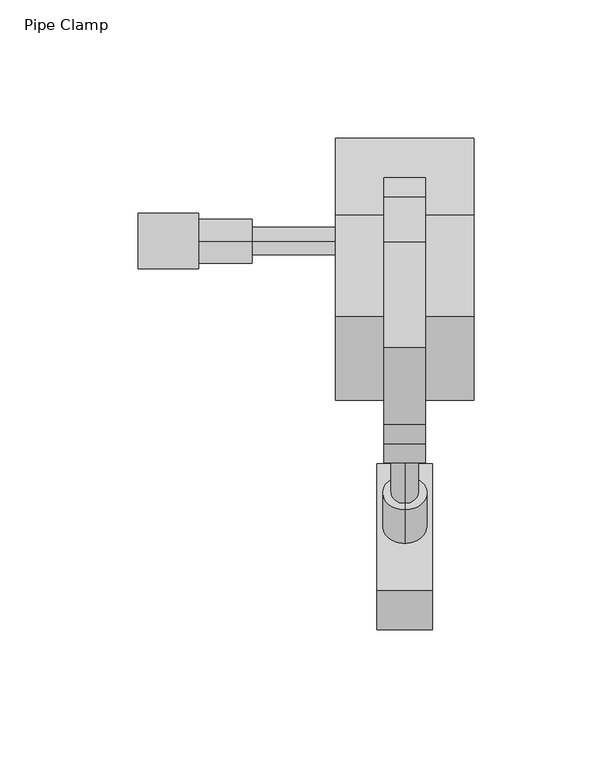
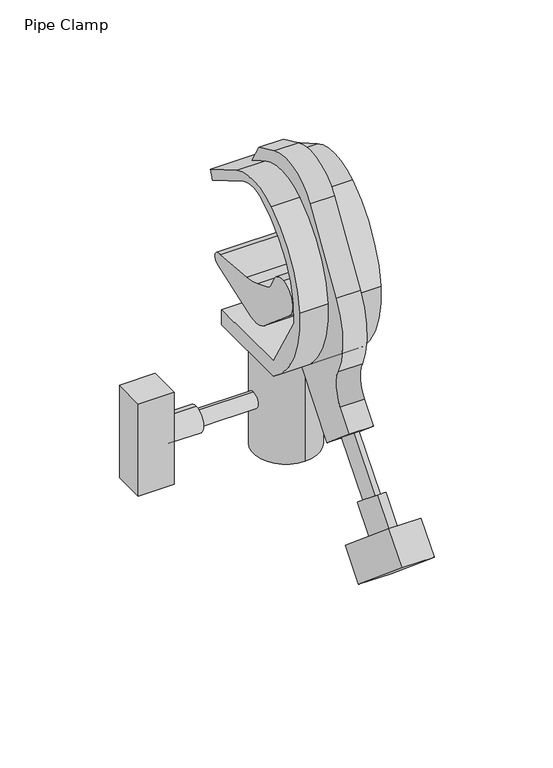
"""IFC4 building model written with IfcOpenShell, lengths in millimetres: proxy geometry, d&b Pipe Clamp : Pipe Clamp."""

import ifcopenshell
import ifcopenshell.guid

model = None  # the IFC model being written
_history = None  # IfcOwnerHistory: only IFC2X3 demands one
_inside = {}  # id of a spatial element -> (the spatial element, [elements in it])
_under = {}  # id of a project, library or spatial element -> (it, [spatial elements below it])
_declared = {}  # id of a project -> (the project, [libraries it declares])
_typed = {}  # id of a type object -> (the type object, [elements of that type])
_made_of = {}  # id of a material, layer set ... -> (it, [elements and type objects made of it])


def new_model(schema):
    """Start an empty IFC model of exactly this schema.

    Asked for "IFC4X3", IfcOpenShell would pick the latest addendum, in which some entities
    have other attributes; the version numbers below select the first issue.
    IFC2X3 requires an IfcOwnerHistory on every rooted entity: one is made here for all.
    """
    global model, _history
    if schema == "IFC4X3":
        model = ifcopenshell.file(schema_version=(4, 3, 0, 0))
    else:
        model = ifcopenshell.file(schema=schema)
    _inside.clear()
    _under.clear()
    _declared.clear()
    _typed.clear()
    _made_of.clear()
    _history = None
    if model.schema == "IFC2X3":
        org = make("IfcOrganization", Name="unknown")
        user = make(
            "IfcPersonAndOrganization",
            ThePerson=make("IfcPerson", FamilyName="unknown"),
            TheOrganization=org,
        )
        app = make(
            "IfcApplication",
            ApplicationDeveloper=org,
            Version="unknown",
            ApplicationFullName="unknown",
            ApplicationIdentifier="unknown",
        )
        _history = make(
            "IfcOwnerHistory",
            OwningUser=user,
            OwningApplication=app,
            ChangeAction="ADDED",
            CreationDate=0,
        )
    return model


def make(cls, **values):
    """One entity of the class cls with the attributes given. An attribute that is None is left unset."""
    return model.create_entity(
        cls, **{name: value for name, value in values.items() if value is not None}
    )


def rooted(cls, **values):
    """An entity with a GlobalId (a new one), such as an element, a storey or a relation."""
    return make(cls, GlobalId=ifcopenshell.guid.new(), OwnerHistory=_history, **values)


def si_unit(unit_type, name, prefix=None):
    """IfcSIUnit, for example si_unit("LENGTHUNIT", "METRE", prefix="MILLI")."""
    return make("IfcSIUnit", UnitType=unit_type, Prefix=prefix, Name=name)


def assignment(units):
    """IfcUnitAssignment: the units of a project."""
    return None if units is None else make("IfcUnitAssignment", Units=units)


def point(xyz):
    """IfcCartesianPoint."""
    return None if xyz is None else make("IfcCartesianPoint", Coordinates=xyz)


def direction(xyz):
    """IfcDirection."""
    return None if xyz is None else make("IfcDirection", DirectionRatios=xyz)


def frame(location, z_axis=None, x_axis=None):
    """IfcAxis2Placement3D, a coordinate frame: its origin and axes. An axis left out is left unset."""
    return make(
        "IfcAxis2Placement3D",
        Location=point(location),
        Axis=direction(z_axis),
        RefDirection=direction(x_axis),
    )


def frame_2d(location, x_axis=None):
    """IfcAxis2Placement2D, a coordinate frame in the plane: its origin and x axis."""
    return make(
        "IfcAxis2Placement2D", Location=point(location), RefDirection=direction(x_axis)
    )


def origin():
    """The frame at (0, 0, 0) with its axes left unset."""
    return frame((0.0, 0.0, 0.0))


def place(relative_to, where):
    """IfcLocalPlacement: puts the frame where relative to a parent placement (None: the world)."""
    return make(
        "IfcLocalPlacement", PlacementRelTo=relative_to, RelativePlacement=where
    )


def context(
    kind, dimensions, precision=None, world=None, true_north=None, identifier=None
):
    """IfcGeometricRepresentationContext, for example the 3D "Model" context."""
    return make(
        "IfcGeometricRepresentationContext",
        ContextIdentifier=identifier,
        ContextType=kind,
        CoordinateSpaceDimension=dimensions,
        Precision=precision,
        WorldCoordinateSystem=world,
        TrueNorth=true_north,
    )


def project(units=None, contexts=None):
    """IfcProject with its units and contexts."""
    return rooted(
        "IfcProject",
        Name="project",
        RepresentationContexts=contexts,
        UnitsInContext=assignment(units),
    )


def spatial(cls, under=None, at=None, **own):
    """A site, building, storey or space (cls), placed at a placement, below another one or the project."""
    s = rooted(cls, ObjectPlacement=at, **own)
    if under is not None:
        _under.setdefault(under.id(), (under, []))[1].append(s)
    return s


def polyline(points):
    """IfcPolyline through the points."""
    return make("IfcPolyline", Points=[point(p) for p in points])


def circle_curve(where, radius):
    """IfcCircle in the frame where."""
    return make("IfcCircle", Position=where, Radius=radius)


def trimmed(basis, trim1, trim2, sense, master):
    """IfcTrimmedCurve: the piece of a basis curve between two trims."""
    return make(
        "IfcTrimmedCurve",
        BasisCurve=basis,
        Trim1=trim1,
        Trim2=trim2,
        SenseAgreement=sense,
        MasterRepresentation=master,
    )


def segment(curve, same_sense, transition):
    """IfcCompositeCurveSegment."""
    return make(
        "IfcCompositeCurveSegment",
        Transition=transition,
        SameSense=same_sense,
        ParentCurve=curve,
    )


def composite_curve(segments, self_intersect=None):
    """IfcCompositeCurve: segments joined end to end."""
    return make("IfcCompositeCurve", Segments=segments, SelfIntersect=self_intersect)


def outline(outer, holes=None, kind="AREA"):
    """IfcArbitraryClosedProfileDef: a profile drawn as a closed curve; with holes, ...WithVoids."""
    if holes is None:
        return make("IfcArbitraryClosedProfileDef", ProfileType=kind, OuterCurve=outer)
    return make(
        "IfcArbitraryProfileDefWithVoids",
        ProfileType=kind,
        OuterCurve=outer,
        InnerCurves=holes,
    )


def extrude(swept, where, along, depth):
    """IfcExtrudedAreaSolid: the profile swept, set in the frame where, extruded along a direction by depth."""
    return make(
        "IfcExtrudedAreaSolid",
        SweptArea=swept,
        Position=where,
        ExtrudedDirection=direction(along),
        Depth=depth,
    )


def shape(context_of_items, identifier, shape_type, items):
    """IfcShapeRepresentation: the items that make up one representation, for example the "Body"."""
    return make(
        "IfcShapeRepresentation",
        ContextOfItems=context_of_items,
        RepresentationIdentifier=identifier,
        RepresentationType=shape_type,
        Items=items,
    )


def source(mapping_origin, context_of_items, identifier, shape_type, items):
    """IfcRepresentationMap: a shape defined once, which mapped items show again and again."""
    return make(
        "IfcRepresentationMap",
        MappingOrigin=mapping_origin,
        MappedRepresentation=shape(context_of_items, identifier, shape_type, items),
    )


def transform(
    local_origin,
    x_axis=None,
    y_axis=None,
    z_axis=None,
    scale=None,
    scale2=None,
    scale3=None,
    uniform=True,
):
    """IfcCartesianTransformationOperator3D, or its non-uniform kind. x_axis, y_axis, z_axis: its Axis1, 2, 3."""
    if uniform:
        return make(
            "IfcCartesianTransformationOperator3D",
            Axis1=direction(x_axis),
            Axis2=direction(y_axis),
            LocalOrigin=point(local_origin),
            Scale=scale,
            Axis3=direction(z_axis),
        )
    return make(
        "IfcCartesianTransformationOperator3DnonUniform",
        Axis1=direction(x_axis),
        Axis2=direction(y_axis),
        LocalOrigin=point(local_origin),
        Scale=scale,
        Axis3=direction(z_axis),
        Scale2=scale2,
        Scale3=scale3,
    )


def mapped(mapping_source, mapping_target):
    """IfcMappedItem: shows the shape of a source again, moved by a transform."""
    return make(
        "IfcMappedItem", MappingSource=mapping_source, MappingTarget=mapping_target
    )


def made_of(thing, what):
    """Note that an element or type object is made of a material, layer set ...; save() writes the relation."""
    if what is not None:
        _made_of.setdefault(what.id(), (what, []))[1].append(thing)
    return thing


def element(
    cls,
    number,
    at=None,
    inside=None,
    cuts=None,
    type_object=None,
    material=None,
    context=None,
    identifier="Body",
    shape_type=None,
    held_by="IfcProductDefinitionShape",
    body=None,
    shapes=None,
    **own,
):
    """One element of the class cls, such as IfcWall. Its Tag is "e" and its number.

    at: its placement. inside: the storey or other place that contains it. cuts: it is an
    opening in that element (IfcRelVoidsElement). A single representation is given by context,
    identifier, shape_type and body (its items); several are given by shapes. held_by: the class
    of the entity that holds the representations. save() writes the other relations.
    """
    e = rooted(cls, Tag="e%d" % number, ObjectPlacement=at, **own)
    if body is not None:
        shapes = [shape(context, identifier, shape_type, body)]
    if shapes is not None:
        e.Representation = make(held_by, Representations=shapes)
    if inside is not None:
        _inside.setdefault(inside.id(), (inside, []))[1].append(e)
    if cuts is not None:
        rooted(
            "IfcRelVoidsElement", RelatingBuildingElement=cuts, RelatedOpeningElement=e
        )
    if type_object is not None:
        _typed.setdefault(type_object.id(), (type_object, []))[1].append(e)
    return made_of(e, material)


def aggregate(whole, parts):
    """IfcRelAggregates: a whole, such as a stair, and the parts it consists of."""
    return rooted("IfcRelAggregates", RelatingObject=whole, RelatedObjects=parts)


def save(model, path):
    """Write the relations noted so far, then the file.

    IfcRelAggregates (storeys below a building ...), IfcRelContainedInSpatialStructure (elements
    in a storey), IfcRelDefinesByType, IfcRelAssociatesMaterial and IfcRelDeclares: one each for
    every whole, place, type object, material and project.
    """
    for whole, parts in _under.values():
        aggregate(whole, parts)
    for where, things in _inside.values():
        rooted(
            "IfcRelContainedInSpatialStructure",
            RelatedElements=things,
            RelatingStructure=where,
        )
    for kind, things in _typed.values():
        rooted("IfcRelDefinesByType", RelatedObjects=things, RelatingType=kind)
    for what, things in _made_of.values():
        rooted("IfcRelAssociatesMaterial", RelatedObjects=things, RelatingMaterial=what)
    for by, libraries in _declared.values():
        rooted("IfcRelDeclares", RelatingContext=by, RelatedDefinitions=libraries)
    model.write(path)


def plane_surface(at):
    """IfcPlane: the flat surface through the origin of the frame at, square to its z axis."""
    return make("IfcPlane", Position=at)


def cylinder_surface(at, radius):
    """IfcCylindricalSurface: all points at the distance radius from the z axis of the frame at."""
    return make("IfcCylindricalSurface", Position=at, Radius=radius)


def revolved_surface(curve, axis_point, axis_direction):
    """IfcSurfaceOfRevolution: the curve turned about the line through axis_point along axis_direction."""
    return make(
        "IfcSurfaceOfRevolution",
        SweptCurve=make("IfcArbitraryOpenProfileDef", ProfileType="CURVE", Curve=curve),
        AxisPosition=make("IfcAxis1Placement", Location=point(axis_point), Axis=direction(axis_direction)),
    )


def advanced_brep(points, edges, surfaces, faces):
    """IfcAdvancedBrep: a solid bounded by faces that lie on surfaces and meet in shared edges.

    An edge is (start, end): straight between two places in points (the first is 0);
    or (start, end, curve); or (start, end, curve, False) where it runs against its curve.
    A face is (place in surfaces, loops), or (place, loops, False) where it looks against
    its surface's normal. A loop lists edges by number (the first is 1), with a minus sign
    where the edge is run from its end to its start. The first loop is the outer one.
    """
    corners = [point(p) for p in points]
    vertices = [make("IfcVertexPoint", VertexGeometry=c) for c in corners]
    made = []
    for start, end, *more in edges:
        made.append(
            make(
                "IfcEdgeCurve",
                EdgeStart=vertices[start],
                EdgeEnd=vertices[end],
                EdgeGeometry=more[0] if more else make("IfcPolyline", Points=[corners[start], corners[end]]),
                SameSense=more[1] if len(more) > 1 else True,
            )
        )
    hull = []
    for where, loops, *sense in faces:
        bounds = []
        for j, loop in enumerate(loops):
            ring = [make("IfcOrientedEdge", EdgeElement=made[abs(k) - 1], Orientation=k > 0) for k in loop]
            bounds.append(
                make(
                    "IfcFaceOuterBound" if j == 0 else "IfcFaceBound",
                    Bound=make("IfcEdgeLoop", EdgeList=ring),
                    Orientation=True,
                )
            )
        hull.append(make("IfcAdvancedFace", Bounds=bounds, FaceSurface=surfaces[where], SameSense=sense[0] if sense else True))
    return make("IfcAdvancedBrep", Outer=make("IfcClosedShell", CfsFaces=hull))


def pipe_clamp_9ec87b98(model_context):
    return source(origin(), model_context, "Body", "SolidModel", [
        extrude(outline(composite_curve([segment(polyline([(25.0, 6.4759171), (-30.0, 6.4759171)]), True, "CONTINUOUS"), segment(trimmed(circle_curve(frame_2d((5.0372043, 58.6849428)), 62.8759736), [point((-30.0, 6.4759171))], [point((-57.590722, 64.2644495))], False, "CARTESIAN"), True, "CONTINUOUS"), segment(trimmed(circle_curve(frame_2d((10.2768614, 58.2181431)), 68.1363831), [point((-57.590722, 64.2644495))], [point((-27.2623177, 115.0809317))], False, "CARTESIAN"), True, "CONTINUOUS"), segment(trimmed(circle_curve(frame_2d((-7.979356, 85.8719025)), 35.0), [point((-27.2623177, 115.0809317))], [point((9.520644, 116.1827916))], False, "CARTESIAN"), True, "CONTINUOUS"), segment(polyline([(9.520644, 116.1827916), (37.1832599, 100.2117729), (34.6378643, 94.7531545), (2.0868208, 113.5465082)]), True, "CONTINUOUS"), segment(trimmed(circle_curve(frame_2d((-7.9131792, 96.2260002)), 20.0), [point((2.0868208, 113.5465082))], [point((-16.5470672, 114.2663987))], True, "CARTESIAN"), True, "CONTINUOUS"), segment(trimmed(circle_curve(frame_2d((10.2768614, 58.2181431)), 62.1363831), [point((-16.5470672, 114.2663987))], [point((-51.7229867, 54.1012337))], True, "CARTESIAN"), True, "CONTINUOUS"), segment(polyline([(-51.7229867, 54.1012337), (-30.0, 16.4759171), (25.0, 16.4759171), (25.0, 6.4759171)]), True, "CONTINUOUS")], self_intersect=False)), frame((-25.0, 0.0, 0.0), z_axis=(1.0, 0.0, 0.0), x_axis=(0.0, 1.0, 0.0)), (0.0, 0.0, 1.0), 50.0),
        advanced_brep(
        [(0.0, 0.0, 6.4759171), (0.0, 20.0, 6.4759171), (0.0, -20.0, 6.4759171), (0.0, -11.9982973, 0.0), (0.0, 11.9982973, 0.0), (0.0, 0.0, 0.0), (0.0, -11.9982973, -63.5240829), (0.0, 11.9982973, -63.5240829), (0.0, -20.0, -63.5240829), (0.0, 20.0, -63.5240829)],
        [
            (0, 1),
            (1, 2, circle_curve(frame((0.0, 0.0, 6.4759171), z_axis=(0.0, 0.0, 1.0), x_axis=(0.0, 1.0, 0.0)), 20.0)),
            (2, 0),
            (2, 1, circle_curve(frame((0.0, 0.0, 6.4759171), z_axis=(0.0, 0.0, 1.0), x_axis=(0.0, 1.0, 0.0)), 20.0)),
            (3, 4, circle_curve(frame((0.0, 0.0, 0.0), z_axis=(0.0, 0.0, -1.0), x_axis=(0.0, 1.0, 0.0)), 11.9982973)),
            (4, 5),
            (5, 3),
            (4, 3, circle_curve(frame((0.0, 0.0, 0.0), z_axis=(0.0, 0.0, -1.0), x_axis=(0.0, 1.0, 0.0)), 11.9982973)),
            (6, 7, circle_curve(frame((0.0, 0.0, -63.5240829), z_axis=(0.0, 0.0, -1.0), x_axis=(0.0, 1.0, 0.0)), 11.9982973)),
            (7, 4),
            (3, 6),
            (7, 6, circle_curve(frame((0.0, 0.0, -63.5240829), z_axis=(0.0, 0.0, -1.0), x_axis=(0.0, 1.0, 0.0)), 11.9982973)),
            (8, 9, circle_curve(frame((0.0, 0.0, -63.5240829), z_axis=(0.0, 0.0, -1.0), x_axis=(0.0, 1.0, 0.0)), 20.0)),
            (9, 7),
            (6, 8),
            (9, 8, circle_curve(frame((0.0, 0.0, -63.5240829), z_axis=(0.0, 0.0, -1.0), x_axis=(0.0, 1.0, 0.0)), 20.0)),
            (1, 9),
            (8, 2),
        ],
        [
            plane_surface(frame((0.0, 0.0, 6.4759171), z_axis=(0.0, 0.0, 1.0), x_axis=(0.0, 1.0, 0.0))),
            plane_surface(frame((0.0, 0.0, 0.0), z_axis=(0.0, 0.0, -1.0), x_axis=(0.0, 1.0, 0.0))),
            revolved_surface(polyline([(0.0, 11.9982973, 0.0), (0.0, 11.9982973, -63.5240829)]), (0.0, 0.0, -20.0), (0.0, 0.0, 1.0)),
            plane_surface(frame((0.0, 0.0, -63.5240829), z_axis=(0.0, 0.0, -1.0), x_axis=(0.0, 1.0, 0.0))),
            cylinder_surface(frame((0.0, 0.0, -20.0), z_axis=(0.0, 0.0, 1.0), x_axis=(0.0, 1.0, 0.0)), 20.0),
        ],
        [
            (0, [[1, 2, 3]]),
            (0, [[-3, 4, -1]]),
            (1, [[5, 6, 7]]),
            (1, [[8, -7, -6]]),
            (2, [[9, 10, -5, 11]]),
            (2, [[12, -11, -8, -10]]),
            (3, [[13, 14, -9, 15]]),
            (3, [[16, -15, -12, -14]]),
            (4, [[-2, 17, -13, 18]]),
            (4, [[-4, -18, -16, -17]]),
        ],
    ),
        extrude(outline(composite_curve([segment(polyline([(15.851952, 121.1876633), (23.351952, 108.1972823), (9.520644, 116.1827916)]), True, "CONTINUOUS"), segment(trimmed(circle_curve(frame_2d((-7.979356, 85.8719025)), 35.0), [point((9.520644, 116.1827916))], [point((-27.2623177, 115.0809317))], True, "CARTESIAN"), True, "CONTINUOUS"), segment(trimmed(circle_curve(frame_2d((10.2768614, 58.2181431)), 68.1363831), [point((-27.2623177, 115.0809317))], [point((-57.590722, 64.2644495))], True, "CARTESIAN"), True, "CONTINUOUS"), segment(trimmed(circle_curve(frame_2d((5.0372043, 58.6849428)), 62.8759736), [point((-57.590722, 64.2644495))], [point((-30.0, 6.4759171))], True, "CARTESIAN"), True, "CONTINUOUS"), segment(polyline([(-30.0, 6.4759171), (-56.734688, -26.5386731), (-80.2140331, -6.8371633), (-70.630197, 4.9978888)]), True, "CONTINUOUS"), segment(trimmed(circle_curve(frame_2d((-86.1731162, 17.5842966)), 20.0), [point((-70.630197, 4.9978888))], [point((-68.3383796, 26.6353832))], True, "CARTESIAN"), True, "CONTINUOUS"), segment(trimmed(circle_curve(frame_2d((-26.268913, 47.985538)), 47.1769979), [point((-68.3383796, 26.6353832))], [point((-66.2772762, 72.985538))], False, "CARTESIAN"), True, "CONTINUOUS"), segment(polyline([(-66.2772762, 72.985538), (-38.4871176, 117.4590883)]), True, "CONTINUOUS"), segment(trimmed(circle_curve(frame_2d((-13.0456747, 101.5615104)), 30.0), [point((-38.4871176, 117.4590883))], [point((-0.3671269, 128.750744))], False, "CARTESIAN"), True, "CONTINUOUS"), segment(polyline([(-0.3671269, 128.750744), (15.851952, 121.1876633)]), True, "CONTINUOUS")], self_intersect=False)), frame((-7.5, 0.0, 0.0), z_axis=(1.0, 0.0, 0.0), x_axis=(0.0, 1.0, 0.0)), (0.0, 0.0, 1.0), 15.0),
        extrude(outline(composite_curve([segment(trimmed(circle_curve(frame_2d((-10.8942773, 44.5549596)), 14.4842004), [point((-6.1786829, 30.859879))], [point((-20.2045418, 33.4594183))], False, "CARTESIAN"), True, "CONTINUOUS"), segment(polyline([(-20.2045418, 33.4594183), (-46.2351425, 55.3016858)]), True, "CONTINUOUS"), segment(trimmed(circle_curve(frame_2d((-39.0015935, 63.9222938)), 11.2534046), [point((-46.2351425, 55.3016858))], [point((-40.5177001, 75.0731025))], False, "CARTESIAN"), True, "CONTINUOUS"), segment(trimmed(circle_curve(frame_2d((-39.1704575, 65.1642712)), 10.0), [point((-40.5177001, 75.0731025))], [point((-30.3409816, 69.8589869))], False, "CARTESIAN"), True, "CONTINUOUS"), segment(polyline([(-30.3409816, 69.8589869), (-26.7402277, 63.0869537)]), True, "CONTINUOUS"), segment(trimmed(circle_curve(frame_2d((-22.1349746, 65.5356102)), 5.2157717), [point((-26.7402277, 63.0869537))], [point((-24.0888371, 60.6996309))], True, "CARTESIAN"), True, "CONTINUOUS"), segment(polyline([(-24.0888371, 60.6996309), (-12.7795295, 56.1303741)]), True, "CONTINUOUS"), segment(trimmed(circle_curve(frame_2d((2.019483, 92.7592152)), 39.5054777), [point((-12.7795295, 56.1303741))], [point((-1.4236463, 53.4040677))], True, "CARTESIAN"), True, "CONTINUOUS"), segment(polyline([(-1.4236463, 53.4040677), (26.7504659, 50.9391523)]), True, "CONTINUOUS"), segment(trimmed(circle_curve(frame_2d((28.0958183, 47.0319653)), 4.1323218), [point((26.7504659, 50.9391523))], [point((29.4411707, 43.1247782))], False, "CARTESIAN"), True, "CONTINUOUS"), segment(polyline([(29.4411707, 43.1247782), (-6.1786829, 30.859879)]), True, "CONTINUOUS")], self_intersect=False)), frame((-25.0, 0.0, 0.0), z_axis=(1.0, 0.0, 0.0), x_axis=(0.0, 1.0, 0.0)), (0.0, 0.0, 1.0), 50.0),
        extrude(outline(polyline([(-74.5642213, -10.0), (-96.5642213, -10.0), (-96.5642213, 10.0), (-74.5642213, 10.0), (-74.5642213, -10.0)])), frame((0.0, 0.0, -58.5050564), z_axis=(0.0, 0.0, 1.0), x_axis=(1.0, 0.0, 0.0)), (0.0, 0.0, 1.0), 59.961947),
        advanced_brep(
        [(-55.262466, 0.0, -23.5431094), (-55.262466, 0.0, -33.5050564), (-55.262466, 0.0, -36.5050564), (-55.262466, 0.0, -20.5431094), (-20.0, 0.0, -23.5431094), (-20.0, 0.0, -33.5050564), (-20.0, 0.0, -28.5240829), (-74.5642213, 0.0, -20.5431094), (-74.5642213, 0.0, -36.5050564), (-74.5642213, 0.0, -28.5240829)],
        [
            (0, 1, circle_curve(frame((-55.262466, 0.0, -28.5240829), z_axis=(-1.0, 0.0, 0.0), x_axis=(0.0, 0.0, -1.0000000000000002)), 4.9809735)),
            (1, 2),
            (2, 3, circle_curve(frame((-55.262466, 0.0, -28.5240829), z_axis=(1.0, 0.0, 0.0), x_axis=(0.0, 0.0, -1.0000000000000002)), 7.9809735)),
            (3, 0),
            (1, 0, circle_curve(frame((-55.262466, 0.0, -28.5240829), z_axis=(-1.0, 0.0, 0.0), x_axis=(0.0, 0.0, -1.0000000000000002)), 4.9809735)),
            (3, 2, circle_curve(frame((-55.262466, 0.0, -28.5240829), z_axis=(1.0, 0.0, 0.0), x_axis=(0.0, 0.0, -1.0000000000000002)), 7.9809735)),
            (4, 5, circle_curve(frame((-20.0, 0.0, -28.5240829), z_axis=(-1.0, 0.0, 0.0), x_axis=(0.0, 0.0, -1.0000000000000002)), 4.9809735)),
            (5, 1),
            (0, 4),
            (5, 4, circle_curve(frame((-20.0, 0.0, -28.5240829), z_axis=(-1.0, 0.0, 0.0), x_axis=(0.0, 0.0, -1.0000000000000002)), 4.9809735)),
            (6, 5),
            (4, 6),
            (7, 8, circle_curve(frame((-74.5642213, 0.0, -28.5240829), z_axis=(-1.0, 0.0, 0.0), x_axis=(0.0, 0.0, -1.0000000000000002)), 7.9809735)),
            (8, 9),
            (9, 7),
            (8, 7, circle_curve(frame((-74.5642213, 0.0, -28.5240829), z_axis=(-1.0, 0.0, 0.0), x_axis=(0.0, 0.0, -1.0000000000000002)), 7.9809735)),
            (2, 8),
            (7, 3),
        ],
        [
            plane_surface(frame((-55.262466, 0.0, -28.5240829), z_axis=(1.0, 0.0, 0.0), x_axis=(0.0, 0.0, -1.0))),
            cylinder_surface(frame((-74.5642213, 0.0, -28.5240829), z_axis=(1.0, 0.0, 0.0), x_axis=(0.0, 0.0, -1.0000000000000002)), 4.9809735),
            plane_surface(frame((-20.0, 0.0, -28.5240829), z_axis=(1.0, 0.0, 0.0), x_axis=(0.0, 0.0, -1.0))),
            plane_surface(frame((-74.5642213, 0.0, -28.5240829), z_axis=(-1.0, 0.0, 0.0), x_axis=(0.0, 0.0, -1.0))),
            cylinder_surface(frame((-74.5642213, 0.0, -28.5240829), z_axis=(1.0, 0.0, 0.0), x_axis=(0.0, 0.0, -1.0000000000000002)), 7.9809735),
        ],
        [
            (0, [[1, 2, 3, 4]]),
            (0, [[5, -4, 6, -2]]),
            (1, [[7, 8, -1, 9]]),
            (1, [[10, -9, -5, -8]]),
            (2, [[11, -7, 12]]),
            (2, [[-12, -10, -11]]),
            (3, [[13, 14, 15]]),
            (3, [[16, -15, -14]]),
            (4, [[-3, 17, -13, 18]]),
            (4, [[-6, -18, -16, -17]]),
        ],
    ),
        extrude(outline(polyline([(0.0, -59.9619469), (0.0, 0.0), (20.0, 0.0), (20.0, -59.9619469), (0.0, -59.9619469)])), frame((10.0, -140.6614785, -56.0632268), z_axis=(0.0, 0.6427876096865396, 0.7660444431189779), x_axis=(-1.0, 0.0, 0.0)), (0.0, 0.0, 1.0), 22.0),
        advanced_brep(
        [(0.0, -94.9621108, -40.4939369), (0.0, -87.3308167, -46.897353), (0.0, -85.0326834, -48.8257158), (0.0, -97.2602442, -38.5655741), (0.0, -72.2958346, -13.4813208), (0.0, -64.6645405, -19.8847368), (0.0, -68.4801875, -16.6830288), (0.0, -109.6671733, -53.3515764), (0.0, -97.4396125, -63.6117182), (0.0, -103.5533929, -58.4816473)],
        [
            (0, 1, circle_curve(frame((0.0, -91.1464638, -43.6956449), z_axis=(0.0, -0.64278760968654, -0.7660444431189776), x_axis=(0.0, 0.7660444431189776, -0.64278760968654)), 4.9809735)),
            (1, 2),
            (2, 3, circle_curve(frame((0.0, -91.1464638, -43.6956449), z_axis=(0.0, 0.64278760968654, 0.7660444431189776), x_axis=(0.0, 0.7660444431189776, -0.64278760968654)), 7.9809735)),
            (3, 0),
            (1, 0, circle_curve(frame((0.0, -91.1464638, -43.6956449), z_axis=(0.0, -0.64278760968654, -0.7660444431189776), x_axis=(0.0, 0.7660444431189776, -0.64278760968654)), 4.9809735)),
            (3, 2, circle_curve(frame((0.0, -91.1464638, -43.6956449), z_axis=(0.0, 0.64278760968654, 0.7660444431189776), x_axis=(0.0, 0.7660444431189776, -0.64278760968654)), 7.9809735)),
            (4, 5, circle_curve(frame((0.0, -68.4801875, -16.6830288), z_axis=(0.0, -0.64278760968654, -0.7660444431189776), x_axis=(0.0, 0.7660444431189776, -0.64278760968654)), 4.9809735)),
            (5, 1),
            (0, 4),
            (5, 4, circle_curve(frame((0.0, -68.4801875, -16.6830288), z_axis=(0.0, -0.64278760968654, -0.7660444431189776), x_axis=(0.0, 0.7660444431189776, -0.64278760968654)), 4.9809735)),
            (6, 5),
            (4, 6),
            (7, 8, circle_curve(frame((0.0, -103.5533929, -58.4816473), z_axis=(0.0, -0.64278760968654, -0.7660444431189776), x_axis=(0.0, 0.7660444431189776, -0.64278760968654)), 7.9809735)),
            (8, 9),
            (9, 7),
            (8, 7, circle_curve(frame((0.0, -103.5533929, -58.4816473), z_axis=(0.0, -0.64278760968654, -0.7660444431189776), x_axis=(0.0, 0.7660444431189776, -0.64278760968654)), 7.9809735)),
            (2, 8),
            (7, 3),
        ],
        [
            plane_surface(frame((0.0, -91.1464638, -43.6956449), z_axis=(0.0, 0.64278760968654, 0.7660444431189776), x_axis=(0.0, 0.7660444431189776, -0.64278760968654))),
            cylinder_surface(frame((0.0, -103.5533929, -58.4816473), z_axis=(0.0, 0.64278760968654, 0.7660444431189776), x_axis=(0.0, 0.7660444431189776, -0.64278760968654)), 4.9809735),
            plane_surface(frame((0.0, -68.4801875, -16.6830288), z_axis=(0.0, 0.64278760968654, 0.7660444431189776), x_axis=(0.0, 0.7660444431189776, -0.64278760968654))),
            plane_surface(frame((0.0, -103.5533929, -58.4816473), z_axis=(0.0, -0.64278760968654, -0.7660444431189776), x_axis=(0.0, 0.7660444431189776, -0.64278760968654))),
            cylinder_surface(frame((0.0, -103.5533929, -58.4816473), z_axis=(0.0, 0.64278760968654, 0.7660444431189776), x_axis=(0.0, 0.7660444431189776, -0.64278760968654)), 7.9809735),
        ],
        [
            (0, [[1, 2, 3, 4]]),
            (0, [[5, -4, 6, -2]]),
            (1, [[7, 8, -1, 9]]),
            (1, [[10, -9, -5, -8]]),
            (2, [[11, -7, 12]]),
            (2, [[-12, -10, -11]]),
            (3, [[13, 14, 15]]),
            (3, [[16, -15, -14]]),
            (4, [[-3, 17, -13, 18]]),
            (4, [[-6, -18, -16, -17]]),
        ],
    ),
    ])


if __name__ == "__main__":
    model = new_model("IFC4")
    model_context = context("Model", 3, world=origin())
    ifc_project = project(units=[si_unit("LENGTHUNIT", "METRE", prefix="MILLI")], contexts=[model_context])
    site = spatial("IfcSite", under=ifc_project)
    building = spatial("IfcBuilding", under=site)
    placement = place(None, origin())
    pipe_clamp_shape = pipe_clamp_9ec87b98(model_context)
    element("IfcBuildingElementProxy", 1, Name="d&b Pipe Clamp : Pipe Clamp", ObjectType="d&b Pipe Clamp : Pipe Clamp", at=placement, inside=building, context=model_context, shape_type="MappedRepresentation", body=[
        mapped(pipe_clamp_shape, transform((0.0, 0.0, 0.0), x_axis=(1.0, 0.0, 0.0), y_axis=(0.0, 1.0, 0.0), z_axis=(0.0, 0.0, 1.0))),
    ])
    save(model, "model.ifc")
